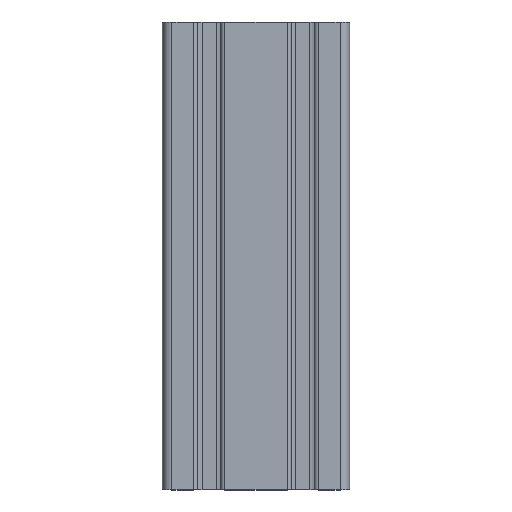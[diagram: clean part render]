
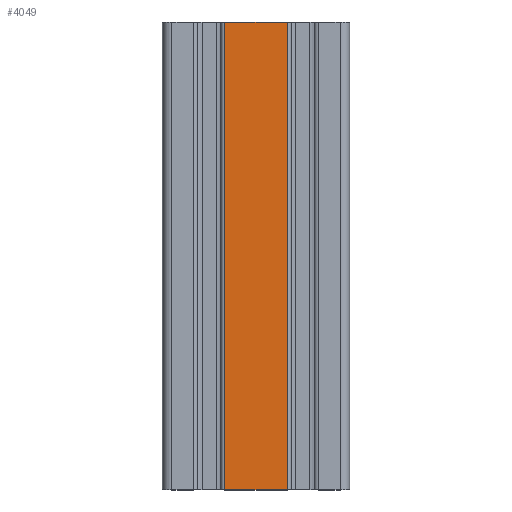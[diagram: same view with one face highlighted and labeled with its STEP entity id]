
A CAD part, top view. The second image highlights one B-rep face of the part: STEP entity #4049.
In plain terms, the highlighted planar face has unit normal (0, 0, 1).
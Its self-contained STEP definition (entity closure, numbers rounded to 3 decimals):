
#345 = LINE ( 'NONE', #1379, #3454 ) ;
#432 = FACE_OUTER_BOUND ( 'NONE', #3513, .T. ) ;
#524 = EDGE_CURVE ( 'NONE', #2709, #2253, #573, .T. ) ;
#548 = AXIS2_PLACEMENT_3D ( 'NONE', #803, #852, #1420 ) ;
#573 = LINE ( 'NONE', #1594, #2783 ) ;
#741 = ORIENTED_EDGE ( 'NONE', *, *, #524, .F. ) ;
#803 = CARTESIAN_POINT ( 'NONE',  ( -6.7, 50., 10. ) ) ;
#852 = DIRECTION ( 'NONE',  ( 0., 0., -1. ) ) ;
#865 = CARTESIAN_POINT ( 'NONE',  ( 6.7, 50., 10. ) ) ;
#1081 = VERTEX_POINT ( 'NONE', #1326 ) ;
#1131 = CARTESIAN_POINT ( 'NONE',  ( -6.7, 50., 10. ) ) ;
#1326 = CARTESIAN_POINT ( 'NONE',  ( -6.7, -50., 10. ) ) ;
#1379 = CARTESIAN_POINT ( 'NONE',  ( -6.7, 50., 10. ) ) ;
#1420 = DIRECTION ( 'NONE',  ( -1., 0., 0. ) ) ;
#1559 = EDGE_CURVE ( 'NONE', #1081, #2253, #3018, .T. ) ;
#1594 = CARTESIAN_POINT ( 'NONE',  ( 6.7, 50., 10. ) ) ;
#1608 = EDGE_CURVE ( 'NONE', #3329, #1081, #3766, .T. ) ;
#1610 = ORIENTED_EDGE ( 'NONE', *, *, #1608, .T. ) ;
#1672 = CARTESIAN_POINT ( 'NONE',  ( -6.7, 50., 10. ) ) ;
#1705 = CARTESIAN_POINT ( 'NONE',  ( 6.7, -50., 10. ) ) ;
#2212 = VECTOR ( 'NONE', #3432, 1000. ) ;
#2253 = VERTEX_POINT ( 'NONE', #1705 ) ;
#2664 = DIRECTION ( 'NONE',  ( 1., 0., 0. ) ) ;
#2709 = VERTEX_POINT ( 'NONE', #865 ) ;
#2783 = VECTOR ( 'NONE', #3606, 1000. ) ;
#2822 = ORIENTED_EDGE ( 'NONE', *, *, #3991, .F. ) ;
#3018 = LINE ( 'NONE', #3086, #3951 ) ;
#3086 = CARTESIAN_POINT ( 'NONE',  ( -6.7, -50., 10. ) ) ;
#3102 = PLANE ( 'NONE',  #548 ) ;
#3197 = ORIENTED_EDGE ( 'NONE', *, *, #1559, .T. ) ;
#3329 = VERTEX_POINT ( 'NONE', #1672 ) ;
#3432 = DIRECTION ( 'NONE',  ( 0., -1., 0. ) ) ;
#3454 = VECTOR ( 'NONE', #2664, 1000. ) ;
#3513 = EDGE_LOOP ( 'NONE', ( #3197, #741, #2822, #1610 ) ) ;
#3606 = DIRECTION ( 'NONE',  ( 0., -1., 0. ) ) ;
#3766 = LINE ( 'NONE', #1131, #2212 ) ;
#3951 = VECTOR ( 'NONE', #4139, 1000. ) ;
#3991 = EDGE_CURVE ( 'NONE', #3329, #2709, #345, .T. ) ;
#4049 = ADVANCED_FACE ( 'NONE', ( #432 ), #3102, .F. ) ;
#4139 = DIRECTION ( 'NONE',  ( 1., 0., 0. ) ) ;
